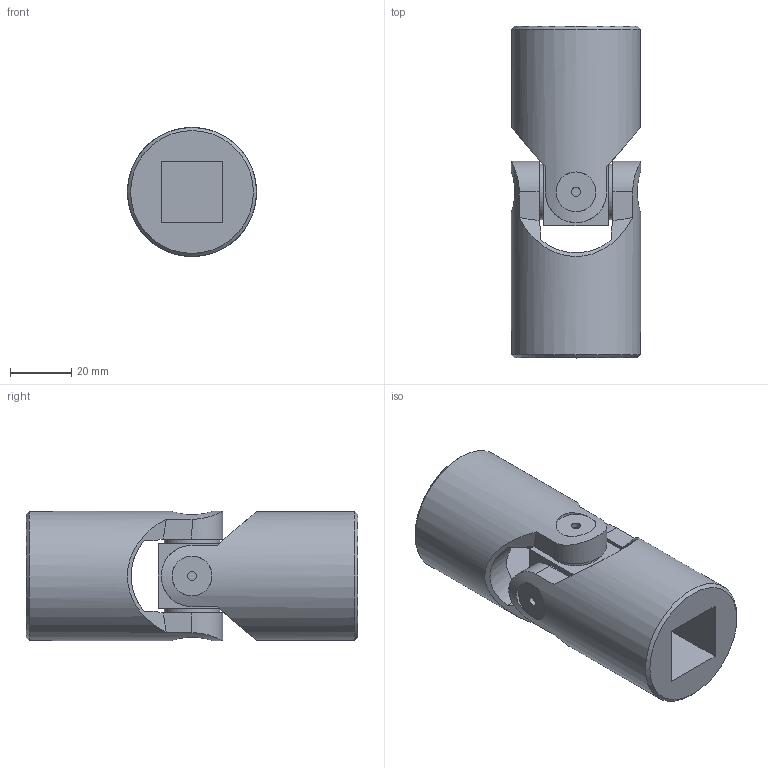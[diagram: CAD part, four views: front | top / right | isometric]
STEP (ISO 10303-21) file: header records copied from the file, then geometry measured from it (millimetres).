
FILE_DESCRIPTION(/* description */ ('EXTENSIBLE TRANSIMISSIONS Series G DIN 808 -2-'),/* implementation_level */ '2;1');
FILE_NAME(/* name */ '\\SRV2016\Societa\Stefano\Disegni 3D\Dis. Clienti\0000Catalogo 3D\01Singoli G-GB\Ø42_5GB-2Q_SGBS252Q.stp',/* time_stamp */ '2021-11-10T15:25:09+01:00',/* author */ ('acquisti'),/* organization */ ('MARIOFERRI'),/* preprocessor_version */ 'ST-DEVELOPER v15.6',/* originating_system */ 'Autodesk Inventor 2015',/* authorisation */ '');
FILE_SCHEMA (('AUTOMOTIVE_DESIGN { 1 0 10303 214 3 1 1 }'));
Length unit declared in the file: millimetre
Products named in the file (3): 3G SFE; 5GB MOQ; Assieme8
Assembly tree (3 placements, depth 2):
  Assieme8
    3G SFE
    5GB MOQ  x2
Bounding box: 42 x 108 x 42 mm (x, y, z)
Volume: 99290.2 mm3; surface area: 27659 mm2
Topology: 3 solids, 3 shells, 102 faces, 252 edges, 166 vertices
Faces by surface type: plane 44, cylinder 38, cone 18, torus 2
Full cylindrical faces by diameter (mm): 3 x4, 18 x4, 42 x2
Entity records: 1899 total; most frequent: CARTESIAN_POINT 577, ORIENTED_EDGE 258, DIRECTION 252, EDGE_CURVE 129, AXIS2_PLACEMENT_3D 106, VERTEX_POINT 91, EDGE_LOOP 76, FACE_OUTER_BOUND 58
